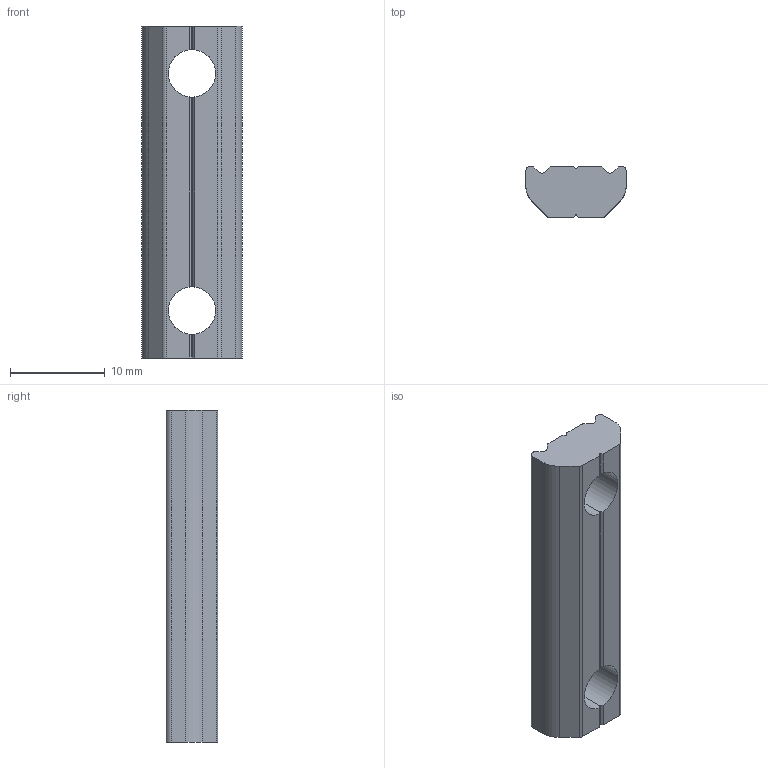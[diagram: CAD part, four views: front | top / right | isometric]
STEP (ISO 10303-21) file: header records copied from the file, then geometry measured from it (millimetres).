
FILE_DESCRIPTION (( 'STEP AP214' ), '1' );
FILE_NAME ('PTN-M5P25.STEP', '2019-10-30T02:21:16', ( '微软用户' ), ( '微软中国' ), 'SwSTEP 2.0', 'SolidWorks 2016', '' );
FILE_SCHEMA (( 'AUTOMOTIVE_DESIGN' ));
Length unit declared in the file: millimetre
Products named in the file (1): PTN-M5P25
Bounding box: 10.6 x 5.4 x 35 mm (x, y, z)
Volume: 1518.3 mm3; surface area: 1236.4 mm2
Topology: 1 solids, 1 shells, 50 faces, 156 edges, 104 vertices
Faces by surface type: plane 28, cylinder 22
Entity records: 1890 total; most frequent: CARTESIAN_POINT 503, ORIENTED_EDGE 312, DIRECTION 262, EDGE_CURVE 156, VERTEX_POINT 104, LINE 88, VECTOR 88, AXIS2_PLACEMENT_3D 87
